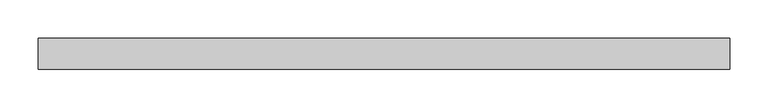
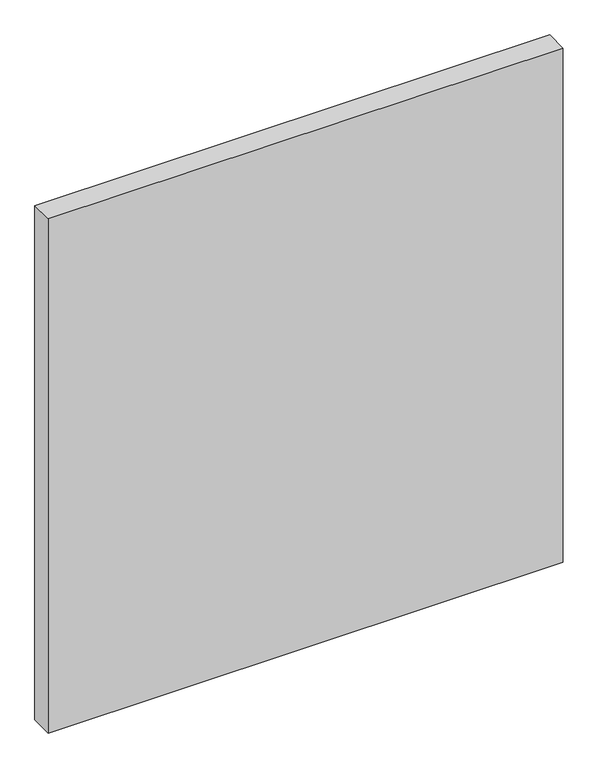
"""IFC4 building model written with IfcOpenShell, lengths in millimetres: plate geometry, Panneau système : Vitré."""

from ifc_helpers import new_model, si_unit, origin, origin_with_axes, place, context, project, spatial, polyline, outline, extrude, source, transform, mapped, element, save


def plate_36b59008(model_context):
    return source(origin(), model_context, "Body", "SweptSolid", [
        extrude(outline(polyline([(450.0, 5.0), (-450.0, 5.0), (-450.0, 45.0), (450.0, 45.0), (450.0, 5.0)])), origin_with_axes(), (0.0, 0.0, 1.0), 950.0),
    ])


if __name__ == "__main__":
    model = new_model("IFC4")
    model_context = context("Model", 3, world=origin())
    ifc_project = project(units=[si_unit("LENGTHUNIT", "METRE", prefix="MILLI")], contexts=[model_context])
    site = spatial("IfcSite", under=ifc_project)
    building = spatial("IfcBuilding", under=site)
    placement = place(None, origin())
    plate_shape = plate_36b59008(model_context)
    element("IfcPlate", 1, ObjectType="Panneau système : Vitré", at=placement, inside=building, context=model_context, shape_type="MappedRepresentation", body=[
        mapped(plate_shape, transform((0.0, 0.0, 0.0), x_axis=(1.0, 0.0, 0.0), y_axis=(0.0, 1.0, 0.0), z_axis=(0.0, 0.0, 1.0))),
    ])
    save(model, "model.ifc")
